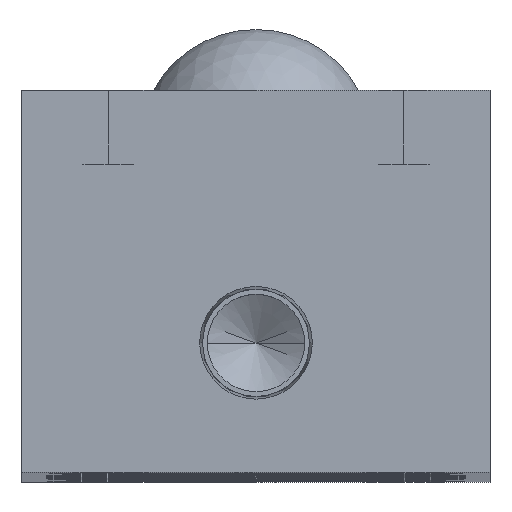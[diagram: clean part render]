
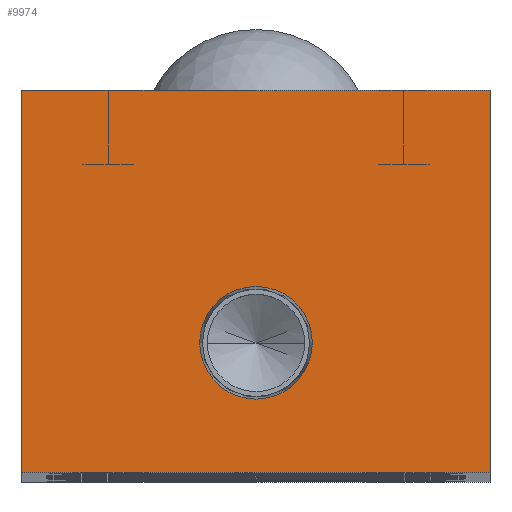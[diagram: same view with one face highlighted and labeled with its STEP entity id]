
A CAD part, top view. The second image highlights one B-rep face of the part: STEP entity #9974.
In plain terms, the highlighted planar face has unit normal (0, 0, 1).
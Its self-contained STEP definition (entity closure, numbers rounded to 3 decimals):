
#178 = VERTEX_POINT ( 'NONE', #7822 ) ;
#313 = CARTESIAN_POINT ( 'NONE',  ( -19., 31., 0. ) ) ;
#412 = VERTEX_POINT ( 'NONE', #2573 ) ;
#663 = LINE ( 'NONE', #2307, #8738 ) ;
#917 = CARTESIAN_POINT ( 'NONE',  ( -19., 31., 0. ) ) ;
#2072 = DIRECTION ( 'NONE',  ( 0., 0., 1. ) ) ;
#2168 = CARTESIAN_POINT ( 'NONE',  ( 0., 10.5, 0. ) ) ;
#2228 = EDGE_CURVE ( 'NONE', #3034, #6695, #5398, .T. ) ;
#2242 = ORIENTED_EDGE ( 'NONE', *, *, #6665, .T. ) ;
#2307 = CARTESIAN_POINT ( 'NONE',  ( 19., 0., 0. ) ) ;
#2573 = CARTESIAN_POINT ( 'NONE',  ( 19., 0., 0. ) ) ;
#2838 = VECTOR ( 'NONE', #9732, 1000. ) ;
#2965 = EDGE_LOOP ( 'NONE', ( #6450, #4158, #2242, #11123 ) ) ;
#3028 = EDGE_CURVE ( 'NONE', #178, #412, #663, .T. ) ;
#3030 = DIRECTION ( 'NONE',  ( 1., 0., 0. ) ) ;
#3034 = VERTEX_POINT ( 'NONE', #6646 ) ;
#3973 = EDGE_CURVE ( 'NONE', #10612, #5160, #10948, .T. ) ;
#4158 = ORIENTED_EDGE ( 'NONE', *, *, #3028, .T. ) ;
#4379 = DIRECTION ( 'NONE',  ( 0., 0., -1. ) ) ;
#4389 = ORIENTED_EDGE ( 'NONE', *, *, #3973, .F. ) ;
#4595 = FACE_BOUND ( 'NONE', #5013, .T. ) ;
#5013 = EDGE_LOOP ( 'NONE', ( #9124, #4389 ) ) ;
#5160 = VERTEX_POINT ( 'NONE', #8110 ) ;
#5398 = LINE ( 'NONE', #313, #2838 ) ;
#5430 = AXIS2_PLACEMENT_3D ( 'NONE', #8674, #4379, #10368 ) ;
#5558 = DIRECTION ( 'NONE',  ( 0., -1., 0. ) ) ;
#5914 = AXIS2_PLACEMENT_3D ( 'NONE', #7230, #2072, #8098 ) ;
#6150 = VECTOR ( 'NONE', #9477, 1000. ) ;
#6450 = ORIENTED_EDGE ( 'NONE', *, *, #7072, .T. ) ;
#6646 = CARTESIAN_POINT ( 'NONE',  ( 19., 31., 0. ) ) ;
#6665 = EDGE_CURVE ( 'NONE', #412, #3034, #10689, .T. ) ;
#6695 = VERTEX_POINT ( 'NONE', #917 ) ;
#6958 = VECTOR ( 'NONE', #5558, 1000. ) ;
#7020 = AXIS2_PLACEMENT_3D ( 'NONE', #2168, #8202, #3030 ) ;
#7072 = EDGE_CURVE ( 'NONE', #6695, #178, #9225, .T. ) ;
#7230 = CARTESIAN_POINT ( 'NONE',  ( 0., 10.5, 0. ) ) ;
#7312 = CIRCLE ( 'NONE', #7020, 4.574 ) ;
#7814 = PLANE ( 'NONE',  #5430 ) ;
#7822 = CARTESIAN_POINT ( 'NONE',  ( -19., 0., 0. ) ) ;
#8098 = DIRECTION ( 'NONE',  ( 1., 0., 0. ) ) ;
#8110 = CARTESIAN_POINT ( 'NONE',  ( 4.574, 10.5, 0. ) ) ;
#8202 = DIRECTION ( 'NONE',  ( 0., 0., 1. ) ) ;
#8634 = FACE_OUTER_BOUND ( 'NONE', #2965, .T. ) ;
#8674 = CARTESIAN_POINT ( 'NONE',  ( 0., 0., 0. ) ) ;
#8738 = VECTOR ( 'NONE', #10018, 1000. ) ;
#8771 = CARTESIAN_POINT ( 'NONE',  ( -4.574, 10.5, 0. ) ) ;
#9124 = ORIENTED_EDGE ( 'NONE', *, *, #9660, .F. ) ;
#9225 = LINE ( 'NONE', #10669, #6958 ) ;
#9477 = DIRECTION ( 'NONE',  ( 0., 1., 0. ) ) ;
#9660 = EDGE_CURVE ( 'NONE', #5160, #10612, #7312, .T. ) ;
#9732 = DIRECTION ( 'NONE',  ( -1., 0., 0. ) ) ;
#9974 = ADVANCED_FACE ( 'NONE', ( #4595, #8634 ), #7814, .F. ) ;
#10018 = DIRECTION ( 'NONE',  ( 1., 0., 0. ) ) ;
#10317 = CARTESIAN_POINT ( 'NONE',  ( 19., 31., 0. ) ) ;
#10368 = DIRECTION ( 'NONE',  ( -1., 0., 0. ) ) ;
#10612 = VERTEX_POINT ( 'NONE', #8771 ) ;
#10669 = CARTESIAN_POINT ( 'NONE',  ( -19., 0., 0. ) ) ;
#10689 = LINE ( 'NONE', #10317, #6150 ) ;
#10948 = CIRCLE ( 'NONE', #5914, 4.574 ) ;
#11123 = ORIENTED_EDGE ( 'NONE', *, *, #2228, .T. ) ;
